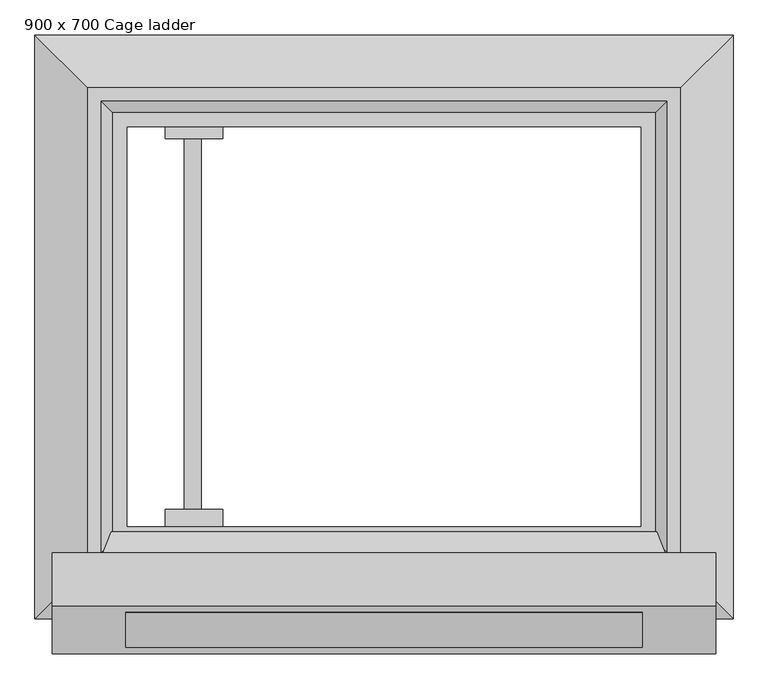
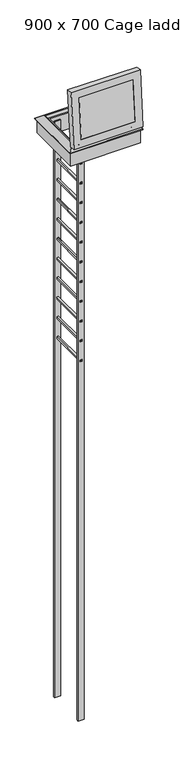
"""IFC4 building model written with IfcOpenShell, lengths in millimetres: proxy geometry, 1_Topaccess_dakluik_900x700_Staka : 900 x 700 Cage ladder."""

from ifc_helpers import new_model, si_unit, point, frame, frame_2d, origin, place, context, project, spatial, polyline, circle_curve, trimmed, segment, composite_curve, outline, extrude, faceted_brep, source, transform, mapped, element, save


def proxy_900_x_700_cage_ladder_d702bcfd(model_context):
    return source(origin(), model_context, "Body", "SolidModel", [
        extrude(outline(polyline([(-450.3518203, -901.2697623), (-455.6416297, -931.2697623), (-483.3518203, -931.2697623), (-483.3518203, -901.2697623), (-450.3518203, -901.2697623)]), holes=[polyline([(-478.3518203, -906.2697623), (-478.3518203, -926.2697623), (-459.8371279, -926.2697623), (-456.3105883, -906.2697623), (-478.3518203, -906.2697623)])]), frame((0.0, -221.4549021, 0.0), z_axis=(0.0, 1.0, 0.0), x_axis=(0.0, 0.0, 1.0)), (0.0, 0.0, 1.0), 719.9860439),
        extrude(outline(polyline([(-450.3518203, -901.2697623), (-455.6416297, -931.2697623), (-483.3518203, -931.2697623), (-483.3518203, -901.2697623), (-450.3518203, -901.2697623)]), holes=[polyline([(-478.3518203, -906.2697623), (-478.3518203, -926.2697623), (-459.8371279, -926.2697623), (-456.3105883, -906.2697623), (-478.3518203, -906.2697623)])]), frame((0.0, -221.4549021, 0.0), z_axis=(0.0, 1.0, 0.0), x_axis=(0.0, 0.0, 1.0)), (0.0, 0.0, 1.0), 719.9860439),
        extrude(outline(polyline([(-100.3518203, -901.2697623), (-105.6416297, -931.2697623), (-133.3518203, -931.2697623), (-133.3518203, -901.2697623), (-100.3518203, -901.2697623)]), holes=[polyline([(-128.3518203, -906.2697623), (-128.3518203, -926.2697623), (-109.8371279, -926.2697623), (-106.3105883, -906.2697623), (-128.3518203, -906.2697623)])]), frame((0.0, -221.4549021, 0.0), z_axis=(0.0, 1.0, 0.0), x_axis=(0.0, 0.0, 1.0)), (0.0, 0.0, 1.0), 719.9860439),
        extrude(outline(polyline([(-3600.3518203, -901.2697623), (-3605.6416297, -931.2697623), (-3633.3518203, -931.2697623), (-3633.3518203, -901.2697623), (-3600.3518203, -901.2697623)]), holes=[polyline([(-3628.3518203, -906.2697623), (-3628.3518203, -926.2697623), (-3609.8371279, -926.2697623), (-3606.3105883, -906.2697623), (-3628.3518203, -906.2697623)])]), frame((0.0, -221.4549021, 0.0), z_axis=(0.0, 1.0, 0.0), x_axis=(0.0, 0.0, 1.0)), (0.0, 0.0, 1.0), 719.9860439),
        extrude(outline(polyline([(-3250.3518203, -901.2697623), (-3255.6416297, -931.2697623), (-3283.3518203, -931.2697623), (-3283.3518203, -901.2697623), (-3250.3518203, -901.2697623)]), holes=[polyline([(-3278.3518203, -906.2697623), (-3278.3518203, -926.2697623), (-3259.8371279, -926.2697623), (-3256.3105883, -906.2697623), (-3278.3518203, -906.2697623)])]), frame((0.0, -221.4549021, 0.0), z_axis=(0.0, 1.0, 0.0), x_axis=(0.0, 0.0, 1.0)), (0.0, 0.0, 1.0), 719.9860439),
        extrude(outline(polyline([(-2900.3518203, -901.2697623), (-2905.6416297, -931.2697623), (-2933.3518203, -931.2697623), (-2933.3518203, -901.2697623), (-2900.3518203, -901.2697623)]), holes=[polyline([(-2928.3518203, -906.2697623), (-2928.3518203, -926.2697623), (-2909.8371279, -926.2697623), (-2906.3105883, -906.2697623), (-2928.3518203, -906.2697623)])]), frame((0.0, -221.4549021, 0.0), z_axis=(0.0, 1.0, 0.0), x_axis=(0.0, 0.0, 1.0)), (0.0, 0.0, 1.0), 719.9860439),
        extrude(outline(polyline([(-2550.3518203, -901.2697623), (-2555.6416297, -931.2697623), (-2583.3518203, -931.2697623), (-2583.3518203, -901.2697623), (-2550.3518203, -901.2697623)]), holes=[polyline([(-2578.3518203, -906.2697623), (-2578.3518203, -926.2697623), (-2559.8371279, -926.2697623), (-2556.3105883, -906.2697623), (-2578.3518203, -906.2697623)])]), frame((0.0, -221.4549021, 0.0), z_axis=(0.0, 1.0, 0.0), x_axis=(0.0, 0.0, 1.0)), (0.0, 0.0, 1.0), 719.9860439),
        extrude(outline(polyline([(-2200.3518203, -901.2697623), (-2205.6416297, -931.2697623), (-2233.3518203, -931.2697623), (-2233.3518203, -901.2697623), (-2200.3518203, -901.2697623)]), holes=[polyline([(-2228.3518203, -906.2697623), (-2228.3518203, -926.2697623), (-2209.8371279, -926.2697623), (-2206.3105883, -906.2697623), (-2228.3518203, -906.2697623)])]), frame((0.0, -221.4549021, 0.0), z_axis=(0.0, 1.0, 0.0), x_axis=(0.0, 0.0, 1.0)), (0.0, 0.0, 1.0), 719.9860439),
        extrude(outline(polyline([(-1850.3518203, -901.2697623), (-1855.6416297, -931.2697623), (-1883.3518203, -931.2697623), (-1883.3518203, -901.2697623), (-1850.3518203, -901.2697623)]), holes=[polyline([(-1878.3518203, -906.2697623), (-1878.3518203, -926.2697623), (-1859.8371279, -926.2697623), (-1856.3105883, -906.2697623), (-1878.3518203, -906.2697623)])]), frame((0.0, -221.4549021, 0.0), z_axis=(0.0, 1.0, 0.0), x_axis=(0.0, 0.0, 1.0)), (0.0, 0.0, 1.0), 719.9860439),
        extrude(outline(polyline([(-1150.3518203, -901.2697623), (-1155.6416297, -931.2697623), (-1183.3518203, -931.2697623), (-1183.3518203, -901.2697623), (-1150.3518203, -901.2697623)]), holes=[polyline([(-1178.3518203, -906.2697623), (-1178.3518203, -926.2697623), (-1159.8371279, -926.2697623), (-1156.3105883, -906.2697623), (-1178.3518203, -906.2697623)])]), frame((0.0, -221.4549021, 0.0), z_axis=(0.0, 1.0, 0.0), x_axis=(0.0, 0.0, 1.0)), (0.0, 0.0, 1.0), 719.9860439),
        extrude(outline(polyline([(-1500.3518203, -901.2697623), (-1505.6416297, -931.2697623), (-1533.3518203, -931.2697623), (-1533.3518203, -901.2697623), (-1500.3518203, -901.2697623)]), holes=[polyline([(-1528.3518203, -906.2697623), (-1528.3518203, -926.2697623), (-1509.8371279, -926.2697623), (-1506.3105883, -906.2697623), (-1528.3518203, -906.2697623)])]), frame((0.0, -221.4549021, 0.0), z_axis=(0.0, 1.0, 0.0), x_axis=(0.0, 0.0, 1.0)), (0.0, 0.0, 1.0), 719.9860439),
        extrude(outline(polyline([(-800.3518203, -901.2697623), (-805.6416297, -931.2697623), (-833.3518203, -931.2697623), (-833.3518203, -901.2697623), (-800.3518203, -901.2697623)]), holes=[polyline([(-828.3518203, -906.2697623), (-828.3518203, -926.2697623), (-809.8371279, -926.2697623), (-806.3105883, -906.2697623), (-828.3518203, -906.2697623)])]), frame((0.0, -221.4549021, 0.0), z_axis=(0.0, 1.0, 0.0), x_axis=(0.0, 0.0, 1.0)), (0.0, 0.0, 1.0), 719.9860439),
        extrude(outline(polyline([(-864.1186991, -186.4549021), (-864.1186991, -219.4549021), (-965.0960873, -219.4549021), (-965.0960873, -186.4549021), (-864.1186991, -186.4549021)])), frame((0.0, 0.0, -10000.0), z_axis=(0.0, 0.0, 1.0), x_axis=(1.0, 0.0, 0.0)), (0.0, 0.0, 1.0), 10220.0),
        extrude(outline(polyline([(463.5450979, -10000.0), (463.5450979, 220.0), (495.5885923, 220.0), (495.5885923, 25.0), (498.5311418, 25.0), (498.5311418, 0.0), (496.5450979, 0.0), (496.5450979, -10000.0), (463.5450979, -10000.0)])), frame((-965.0960873, 0.0, 0.0), z_axis=(1.0, 0.0, 0.0), x_axis=(0.0, 1.0, 0.0)), (0.0, 0.0, 1.0), 100.9773883),
        extrude(outline(composite_curve([segment(polyline([(-354.3587615, 273.7553144), (-365.8649084, 288.1379982)]), True, "CONTINUOUS"), segment(trimmed(circle_curve(frame_2d((-360.5095045, 292.4223213)), 6.8582634), [point((-365.8649084, 288.1379982))], [point((-367.181926, 294.0080602))], False, "CARTESIAN"), True, "CONTINUOUS"), segment(polyline([(-367.181926, 294.0080602), (-349.9226192, 336.7263436)]), True, "CONTINUOUS"), segment(trimmed(circle_curve(frame_2d((-346.8978032, 335.5042386)), 3.2623692), [point((-349.9226192, 336.7263436))], [point((-344.376303, 333.4341928))], False, "CARTESIAN"), True, "CONTINUOUS"), segment(trimmed(circle_curve(frame_2d((-340.2194123, 331.6704159)), 4.5156006), [point((-344.376303, 333.4341928))], [point((-341.7830923, 327.4341966))], True, "CARTESIAN"), True, "CONTINUOUS"), segment(polyline([(-341.7830923, 327.4341966), (-304.4744431, 313.6627691), (-354.3587615, 273.7553144)]), True, "CONTINUOUS")], self_intersect=False)), frame((-1031.2697623, 0.0, 0.0), z_axis=(1.0, 0.0, 0.0), x_axis=(0.0, 1.0, 0.0)), (0.0, 0.0, 1.0), 33.7628423),
        extrude(outline(composite_curve([segment(polyline([(-354.3587615, 273.7553144), (-365.8649084, 288.1379982)]), True, "CONTINUOUS"), segment(trimmed(circle_curve(frame_2d((-360.5095045, 292.4223213)), 6.8582634), [point((-365.8649084, 288.1379982))], [point((-367.181926, 294.0080602))], False, "CARTESIAN"), True, "CONTINUOUS"), segment(polyline([(-367.181926, 294.0080602), (-349.9226192, 336.7263436)]), True, "CONTINUOUS"), segment(trimmed(circle_curve(frame_2d((-346.8978032, 335.5042386)), 3.2623692), [point((-349.9226192, 336.7263436))], [point((-344.376303, 333.4341928))], False, "CARTESIAN"), True, "CONTINUOUS"), segment(trimmed(circle_curve(frame_2d((-340.2194123, 331.6704159)), 4.5156006), [point((-344.376303, 333.4341928))], [point((-341.7830923, 327.4341966))], True, "CARTESIAN"), True, "CONTINUOUS"), segment(polyline([(-341.7830923, 327.4341966), (-304.4744431, 313.6627691), (-354.3587615, 273.7553144)]), True, "CONTINUOUS")], self_intersect=False)), frame((-162.9219079, 0.0, 0.0), z_axis=(1.0, 0.0, 0.0), x_axis=(0.0, 1.0, 0.0)), (0.0, 0.0, 1.0), 31.6521456),
        faceted_brep([(-61.2697623, 553.4470955, 328.0), (30.7302377, 645.4470955, 254.4), (-1193.2697623, 645.4470955, 254.4), (-1101.2697623, 553.4470955, 328.0), (-105.2697623, 509.4470955, 282.0), (-85.7439208, 528.9729371, 328.0), (-1076.7956039, 528.9729371, 328.0), (-1057.2697623, 509.4470955, 282.0), (-131.2697623, 483.4470955, 0.0), (-131.2697623, 483.4470955, 282.0), (-1031.2697623, 483.4470955, 282.0), (-1031.2697623, 483.4470955, 0.0), (4.7302377, 619.4470955, 240.0), (4.7302377, 619.4470955, 0.0), (-1167.2697623, 619.4470955, 0.0), (-1167.2697623, 619.4470955, 240.0), (30.7302377, 645.4470955, 240.0), (-1193.2697623, 645.4470955, 240.0), (-1193.2697623, -378.5529045, 254.4), (-1101.2697623, -286.5529045, 328.0), (-1076.7956039, -262.078746, 328.0), (-1057.2697623, -242.5529045, 282.0), (-1031.2697623, -216.5529045, 282.0), (-1031.2697623, -216.5529045, 0.0), (-1167.2697623, -352.5529045, 0.0), (-1167.2697623, -352.5529045, 240.0), (-1193.2697623, -378.5529045, 240.0), (30.7302377, -378.5529045, 254.4), (-61.2697623, -286.5529045, 328.0), (-85.7439208, -262.078746, 328.0), (-105.2697623, -242.5529045, 282.0), (-131.2697623, -216.5529045, 282.0), (-131.2697623, -216.5529045, 0.0), (4.7302377, -352.5529045, 0.0), (4.7302377, -352.5529045, 240.0), (30.7302377, -378.5529045, 240.0)], [[[0, 1, 2, 3]], [[4, 5, 6, 7]], [[8, 9, 10, 11]], [[12, 13, 14, 15]], [[1, 16, 17, 2]], [[3, 2, 18, 19]], [[7, 6, 20, 21]], [[11, 10, 22, 23]], [[15, 14, 24, 25]], [[2, 17, 26, 18]], [[19, 18, 27, 28]], [[21, 20, 29, 30]], [[23, 22, 31, 32]], [[25, 24, 33, 34]], [[18, 26, 35, 27]], [[28, 27, 1, 0]], [[3, 19, 28, 0], [5, 29, 20, 6]], [[30, 29, 5, 4]], [[7, 21, 30, 4], [9, 31, 22, 10]], [[32, 31, 9, 8]], [[13, 33, 24, 14], [11, 23, 32, 8]], [[34, 33, 13, 12]], [[16, 35, 26, 17], [15, 25, 34, 12]], [[27, 35, 16, 1]]]),
        extrude(outline(polyline([(0.0, -906.0), (0.0, 0.0), (139.4, 0.0), (139.4, -906.0), (0.0, -906.0)])), frame((-1034.2669339, -428.8183427, 470.0146001), z_axis=(0.0, 0.08715574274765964, 0.9961946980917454), x_axis=(0.0, 0.9961946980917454, -0.08715574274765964)), (0.0, 0.0, 1.0), 706.0),
        faceted_brep([(-128.2669339, -228.4168474, 1161.1785464), (-128.2669339, -367.2863883, 1173.328057), (-1034.2669339, -367.2863883, 1173.328057), (-1034.2669339, -228.4168474, 1161.1785464), (-85.2669339, -270.8925845, 1208.0589449), (-102.8669339, -226.2030916, 1186.4818918), (-1059.6669339, -226.2030916, 1186.4818918), (-1077.2669339, -270.8925845, 1208.0589449), (0.7330661, -356.0432975, 1301.837173), (0.7330661, -263.3971906, 1293.731689), (-1163.2669339, -263.3971906, 1293.731689), (-1163.2669339, -356.0432975, 1301.837173), (-1034.2669339, -428.8183427, 470.0146001), (-1034.2669339, -289.9488018, 457.8650896), (-1059.6669339, -292.1625577, 432.5617443), (-1077.2669339, -339.9199327, 419.072744), (-1163.2669339, -347.4153266, 333.4), (-1163.2669339, -440.0614335, 341.5054841), (-128.2669339, -428.8183427, 470.0146001), (-128.2669339, -289.9488018, 457.8650896), (-102.8669339, -292.1625577, 432.5617443), (-85.2669339, -339.9199327, 419.072744), (0.7330661, -347.4153266, 333.4), (0.7330661, -440.0614335, 341.5054841)], [[[0, 1, 2, 3]], [[4, 5, 6, 7]], [[8, 9, 10, 11]], [[3, 2, 12, 13]], [[7, 6, 14, 15]], [[11, 10, 16, 17]], [[13, 12, 18, 19]], [[15, 14, 20, 21]], [[17, 16, 22, 23]], [[19, 18, 1, 0]], [[5, 20, 14, 6], [3, 13, 19, 0]], [[21, 20, 5, 4]], [[9, 22, 16, 10], [7, 15, 21, 4]], [[23, 22, 9, 8]], [[11, 17, 23, 8], [1, 18, 12, 2]]]),
    ])


if __name__ == "__main__":
    model = new_model("IFC4")
    model_context = context("Model", 3, world=origin())
    ifc_project = project(units=[si_unit("LENGTHUNIT", "METRE", prefix="MILLI")], contexts=[model_context])
    site = spatial("IfcSite", under=ifc_project)
    building = spatial("IfcBuilding", under=site)
    placement = place(None, origin())
    proxy_900_x_700_cage_ladder_shape = proxy_900_x_700_cage_ladder_d702bcfd(model_context)
    element("IfcBuildingElementProxy", 1, Name="1_Topaccess_dakluik_900x700_Staka : 900 x 700 Cage ladder", ObjectType="1_Topaccess_dakluik_900x700_Staka : 900 x 700 Cage ladder", at=placement, inside=building, context=model_context, shape_type="MappedRepresentation", body=[
        mapped(proxy_900_x_700_cage_ladder_shape, transform((0.0, 0.0, 0.0), x_axis=(1.0, 0.0, 0.0), y_axis=(0.0, 1.0, 0.0), z_axis=(0.0, 0.0, 1.0))),
    ])
    save(model, "model.ifc")
